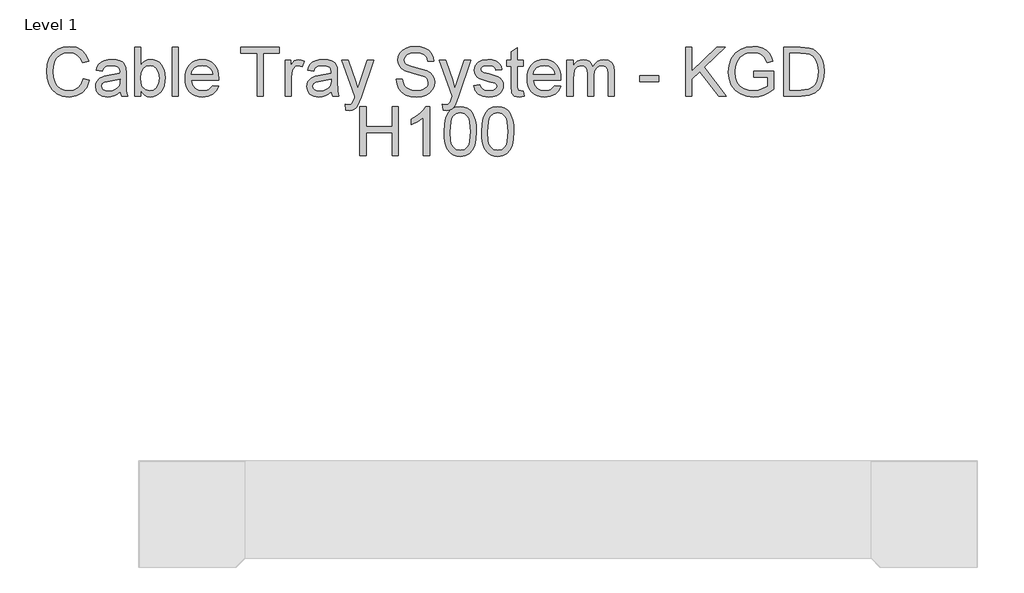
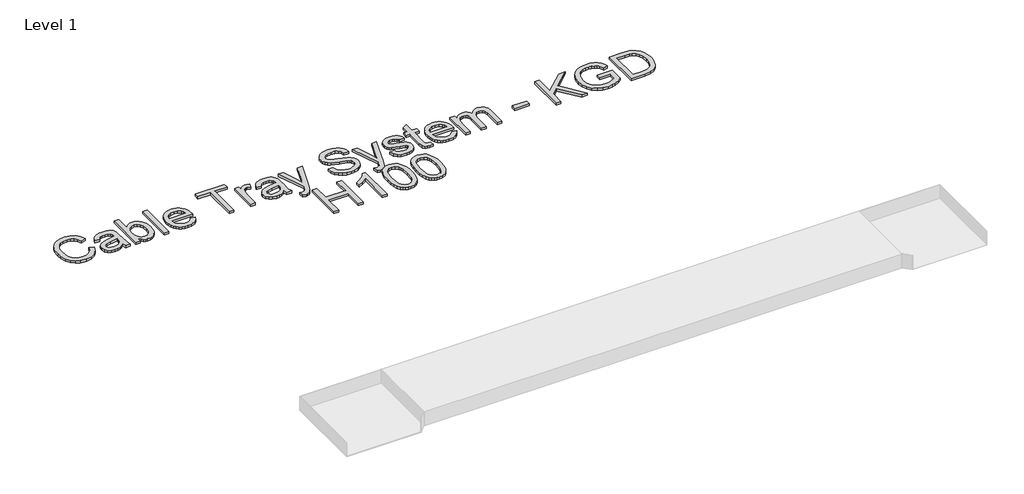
# One storey, part 98 of 106: 1 proxy.
"""IFC4 building model written with IfcOpenShell, lengths in millimetres."""

from ifc_helpers import new_model, si_unit, origin, origin_with_axes, place, context, project, spatial, polyline, outline, extrude, element, save

model = new_model("IFC4")

# Units and contexts
model_context = context("Model", 3, world=origin())
ifc_project = project(units=[si_unit("LENGTHUNIT", "METRE", prefix="MILLI")], contexts=[model_context])

# Site, building, storey
site = spatial("IfcSite", under=ifc_project)
building = spatial("IfcBuilding", under=site)
storey = spatial("IfcBuildingStorey", under=building, Name="Level 1", Elevation=0.0)

# Proxy
placement = place(None, origin())
element("IfcBuildingElementProxy", 1, Name="250mm Arial 3", ObjectType="250mm Arial 3", at=placement, inside=storey, context=model_context, shape_type="SweptSolid", body=[
    extrude(outline(polyline([(164522.3499298, 37392.4106539), (164553.7425267, 37384.31725), (164539.2571732, 37347.7359841), (164516.5251315, 37321.01089), (164486.6653763, 37304.6631338), (164450.7968817, 37299.2138818), (164414.3842284, 37303.3372258), (164385.4671708, 37315.7072579), (164363.3022806, 37335.8947824), (164347.1461296, 37363.4706036), (164337.2822936, 37395.8902044), (164333.9943483, 37430.6090677), (164337.7114893, 37467.2286547), (164348.8629122, 37498.8511778), (164366.8661374, 37524.472626), (164391.1386849, 37543.0889877), (164419.925451, 37554.4243517), (164451.4713321, 37558.2028064), (164485.8912912, 37553.3130415), (164514.3484964, 37538.643747), (164535.9538994, 37515.0992993), (164549.8184521, 37483.584075), (164518.4258552, 37476.1038078), (164507.5426795, 37498.9967978), (164492.6741155, 37514.7007605), (164473.6362223, 37523.7828472), (164450.2450587, 37526.8102095), (164423.2823742, 37523.4532863), (164401.1328124, 37513.3825166), (164384.3252037, 37497.6555613), (164373.3883786, 37477.3300811), (164367.3873035, 37454.3527848), (164365.3869452, 37430.6703814), (164367.7551855, 37401.6690174), (164374.8599066, 37376.5917281), (164386.9693556, 37356.3965394), (164404.3517798, 37342.0414774), (164425.190762, 37333.4652284), (164447.6698848, 37330.6064787), (164473.8738127, 37334.4998965), (164495.709142, 37346.1801498), (164512.1948539, 37365.5246114), (164522.3499298, 37392.4106539)])), origin_with_axes(), (0.0, 0.0, 1.0), 15.0),
    extrude(outline(polyline([(164710.7055113, 37326.6824041), (164695.7066558, 37313.8218627), (164680.2632762, 37305.406562), (164664.022819, 37300.7620518), (164646.6327305, 37299.2138818), (164620.3981457, 37302.938687), (164601.0460199, 37314.1131026), (164589.1128477, 37331.0816596), (164585.1351236, 37352.1888891), (164586.6373085, 37365.2027147), (164591.1438629, 37377.0209238), (164606.9321319, 37395.0471415), (164628.9130811, 37405.3478374), (164656.075035, 37410.0689897), (164710.5215703, 37420.8601949), (164710.7055113, 37427.8499528), (164708.5442046, 37441.8601254), (164702.0602844, 37451.0265185), (164687.5596025, 37457.8323354), (164667.3567496, 37460.100941), (164648.6560815, 37458.591092), (164635.5962707, 37454.0615449), (164626.6904607, 37445.6845653), (164620.4517952, 37432.6324187), (164589.0591983, 37436.5564933), (164594.5084503, 37453.7243198), (164602.6401753, 37467.2133262), (164614.2131297, 37477.5293505), (164629.9860702, 37485.1782303), (164649.2768823, 37489.914711), (164671.4034515, 37491.4935379), (164692.6256441, 37490.098652), (164709.4485812, 37485.9139943), (164722.1328458, 37479.6216794), (164730.9390211, 37471.9038217), (164740.5652666, 37450.5973228), (164742.0981083, 37423.1288005), (164742.0981083, 37384.0719953), (164743.6922636, 37329.5334895), (164749.9462575, 37303.1379564), (164718.5536606, 37303.1379564), (164710.7055113, 37326.6824041)]), holes=[polyline([(164710.7055113, 37389.4675979), (164660.0604233, 37379.8413524), (164633.0517535, 37374.7523181), (164620.8196772, 37366.4749732), (164616.5277206, 37354.3961811), (164618.8653041, 37345.0611754), (164625.8780546, 37337.4122956), (164637.412688, 37332.3079329), (164653.3159201, 37330.6064787), (164670.1771782, 37332.4842097), (164685.076399, 37338.1174028), (164697.1551912, 37346.4177403), (164705.5551634, 37356.2969047), (164709.2799686, 37366.4749732), (164710.5215703, 37380.5771164), (164710.7055113, 37389.4675979)])]), origin_with_axes(), (0.0, 0.0, 1.0), 15.0),
    extrude(outline(polyline([(164816.6555259, 37303.1379564), (164785.262929, 37303.1379564), (164785.262929, 37554.2787318), (164816.6555259, 37554.2787318), (164816.6555259, 37461.1432733), (164826.9792144, 37474.4215141), (164838.6364752, 37483.9059718), (164851.6273081, 37489.5966464), (164865.9517133, 37491.4935379), (164882.1231927, 37489.7844195), (164897.4056239, 37484.6570642), (164910.9252872, 37476.4333687), (164921.8084629, 37465.4352299), (164936.7996542, 37435.5448178), (164942.2259136, 37398.1128248), (164936.608049, 37356.2049342), (164929.5857182, 37339.2746982), (164919.7544551, 37325.0269351), (164907.9534905, 37313.7337243), (164895.0220551, 37305.6671451), (164880.9601491, 37300.8271976), (164865.7677723, 37299.2138818), (164850.9720183, 37301.2947143), (164837.8547259, 37307.5372119), (164826.4158951, 37317.9413746), (164816.6555259, 37332.5072023), (164816.6555259, 37303.1379564)]), holes=[polyline([(164816.6555259, 37396.6412968), (164818.8015042, 37370.4603615), (164825.2394392, 37352.7407121), (164841.68683, 37336.140037), (164863.069971, 37330.6064787), (164881.1881593, 37334.6838375), (164896.6698599, 37346.9159138), (164907.2924525, 37367.2260656), (164910.8333167, 37395.5376509), (164907.4380725, 37424.2631033), (164897.2523397, 37444.3433289), (164882.2534842, 37456.161538), (164864.4188717, 37460.100941), (164846.3006834, 37456.0235822), (164830.8189828, 37443.7915059), (164820.1963901, 37423.8492361), (164816.6555259, 37396.6412968)])]), origin_with_axes(), (0.0, 0.0, 1.0), 15.0),
    extrude(outline(polyline([(164977.5425852, 37303.1379564), (164977.5425852, 37554.2787318), (165008.9351821, 37554.2787318), (165008.9351821, 37303.1379564), (164977.5425852, 37303.1379564)])), origin_with_axes(), (0.0, 0.0, 1.0), 15.0),
    extrude(outline(polyline([(165185.1506578, 37358.075001), (165215.930118, 37354.1509264), (165204.8400087, 37330.9590323), (165187.1433519, 37313.6225933), (165163.2386864, 37302.8160596), (165133.5245511, 37299.2138818), (165114.0459659, 37300.7678), (165096.6903664, 37305.4295547), (165081.4577525, 37313.1991458), (165068.3481243, 37324.0765733), (165057.8060059, 37337.759101), (165050.2759213, 37353.9439928), (165045.7578705, 37372.6312485), (165044.2518536, 37393.8208682), (165045.773199, 37415.7290074), (165050.337235, 37435.0389801), (165057.9439616, 37451.7507861), (165068.593379, 37465.8644256), (165081.6685182, 37477.0771622), (165096.5524106, 37485.0862598), (165113.2450561, 37489.8917184), (165131.7464548, 37491.4935379), (165149.6519613, 37489.8955505), (165165.8445172, 37485.1015883), (165180.3241226, 37477.1116512), (165193.0907775, 37465.9257393), (165203.5121847, 37451.8427566), (165210.9560469, 37435.1616074), (165215.4223642, 37415.8822916), (165216.9111367, 37394.0048092), (165216.7271957, 37385.5435233), (165075.6444505, 37385.5435233), (165081.0783742, 37362.0450609), (165093.7013251, 37344.7699355), (165111.9191481, 37334.1473429), (165134.1376878, 37330.6064787), (165150.8456617, 37332.2466193), (165164.917148, 37337.1670409), (165176.3521467, 37345.6743121), (165185.1506578, 37358.075001)]), holes=[polyline([(165075.6444505, 37416.9361202), (165185.5185398, 37416.9361202), (165181.2725684, 37433.5214669), (165172.9492383, 37445.3856612), (165154.647109, 37456.4221211), (165131.6238275, 37460.100941), (165110.4629486, 37457.1655493), (165092.9655612, 37448.359374), (165080.8024627, 37434.632777), (165075.6444505, 37416.9361202)])]), origin_with_axes(), (0.0, 0.0, 1.0), 15.0),
    extrude(outline(polyline([(165413.1148675, 37303.1379564), (165413.1148675, 37522.8861348), (165330.7093005, 37522.8861348), (165330.7093005, 37554.2787318), (165526.9130313, 37554.2787318), (165526.9130313, 37522.8861348), (165444.5074644, 37522.8861348), (165444.5074644, 37303.1379564), (165413.1148675, 37303.1379564)])), origin_with_axes(), (0.0, 0.0, 1.0), 15.0),
    extrude(outline(polyline([(165558.3056282, 37303.1379564), (165558.3056282, 37487.5694633), (165585.7741505, 37487.5694633), (165585.7741505, 37460.284882), (165595.9215622, 37476.1038078), (165605.2718963, 37485.423485), (165624.8922693, 37491.4935379), (165640.5272541, 37489.0716481), (165656.4074936, 37481.8059787), (165645.9228567, 37453.6630061), (165623.849937, 37460.100941), (165614.4766104, 37458.5527709), (165606.0996308, 37453.9082608), (165594.7872594, 37436.7404343), (165589.6982251, 37400.0748621), (165589.6982251, 37303.1379564), (165558.3056282, 37303.1379564)])), origin_with_axes(), (0.0, 0.0, 1.0), 15.0),
    extrude(outline(polyline([(165793.7501051, 37326.6824041), (165778.7512496, 37313.8218627), (165763.30787, 37305.406562), (165747.0674128, 37300.7620518), (165729.6773243, 37299.2138818), (165703.4427395, 37302.938687), (165684.0906137, 37314.1131026), (165672.1574415, 37331.0816596), (165668.1797174, 37352.1888891), (165669.6819023, 37365.2027147), (165674.1884567, 37377.0209238), (165689.9767257, 37395.0471415), (165711.9576749, 37405.3478374), (165739.1196289, 37410.0689897), (165793.5661641, 37420.8601949), (165793.7501051, 37427.8499528), (165791.5887984, 37441.8601254), (165785.1048782, 37451.0265185), (165770.6041963, 37457.8323354), (165750.4013434, 37460.100941), (165731.7006753, 37458.591092), (165718.6408645, 37454.0615449), (165709.7350545, 37445.6845653), (165703.496389, 37432.6324187), (165672.1037921, 37436.5564933), (165677.5530441, 37453.7243198), (165685.6847691, 37467.2133262), (165697.2577235, 37477.5293505), (165713.030664, 37485.1782303), (165732.3214761, 37489.914711), (165754.4480453, 37491.4935379), (165775.6702379, 37490.098652), (165792.493175, 37485.9139943), (165805.1774396, 37479.6216794), (165813.9836149, 37471.9038217), (165823.6098604, 37450.5973228), (165825.1427021, 37423.1288005), (165825.1427021, 37384.0719953), (165826.7368574, 37329.5334895), (165832.9908513, 37303.1379564), (165801.5982544, 37303.1379564), (165793.7501051, 37326.6824041)]), holes=[polyline([(165793.7501051, 37389.4675979), (165743.1050171, 37379.8413524), (165716.0963473, 37374.7523181), (165703.864271, 37366.4749732), (165699.5723144, 37354.3961811), (165701.9098979, 37345.0611754), (165708.9226484, 37337.4122956), (165720.4572818, 37332.3079329), (165736.3605139, 37330.6064787), (165753.221772, 37332.4842097), (165768.1209928, 37338.1174028), (165780.199785, 37346.4177403), (165788.5997572, 37356.2969047), (165792.3245624, 37366.4749732), (165793.5661641, 37380.5771164), (165793.7501051, 37389.4675979)])]), origin_with_axes(), (0.0, 0.0, 1.0), 15.0),
    extrude(outline(polyline([(165868.3075228, 37232.5046133), (165864.3834482, 37262.7322506), (165880.3250013, 37259.9731356), (165895.2242221, 37263.4373577), (165904.3599584, 37273.0942601), (165912.9438716, 37296.2095122), (165915.3964182, 37303.8124067), (165848.6871497, 37487.5694633), (165881.7352156, 37487.5694633), (165917.1745145, 37385.1143277), (165929.4985614, 37344.1567989), (165941.8226082, 37380.3931754), (165978.181612, 37487.5694633), (166010.9844233, 37487.5694633), (165946.7890151, 37298.7233725), (165930.111698, 37257.7658437), (165921.57377, 37244.6907044), (165911.9015393, 37235.6316103), (165900.6811384, 37230.3433066), (165887.4987002, 37228.5805387), (165868.3075228, 37232.5046133)])), origin_with_axes(), (0.0, 0.0, 1.0), 15.0),
    extrude(outline(polyline([(166127.2964474, 37389.4675979), (166158.6890443, 37389.4675979), (166162.2912222, 37372.0468526), (166168.8057992, 37358.0443442), (166178.9685393, 37346.9312422), (166193.5152066, 37338.1787164), (166211.2961697, 37332.4995381), (166231.1617974, 37330.6064787), (166248.6515206, 37332.0396856), (166263.9646086, 37336.3393065), (166276.3729618, 37343.1451234), (166285.1484802, 37352.0969186), (166290.367806, 37362.3746218), (166292.1075813, 37373.1581628), (166286.8959197, 37392.7478791), (166278.9557999, 37400.4963936), (166265.5587639, 37407.0033064), (166219.849426, 37418.990128), (166170.6452092, 37434.4718287), (166155.0178886, 37445.0331076), (166143.9431077, 37457.8323354), (166137.3442244, 37472.5936004), (166135.1445967, 37489.0409913), (166137.8653906, 37507.4274268), (166146.0277723, 37524.5722607), (166159.4171441, 37539.1035995), (166177.8189081, 37549.64955), (166199.9071562, 37556.0644923), (166224.3559805, 37558.2028064), (166250.8434841, 37555.9648576), (166274.0200498, 37549.2510112), (166293.0579431, 37538.1992229), (166307.1294294, 37522.9474485), (166316.0352394, 37504.4460498), (166319.5761036, 37483.6453887), (166288.1835067, 37483.6453887), (166282.4200221, 37502.3767136), (166270.4025436, 37515.8963769), (166251.6252334, 37524.0817513), (166225.5822538, 37526.8102095), (166198.9261376, 37524.1124082), (166180.6393367, 37516.0190043), (166170.0627294, 37504.1088247), (166166.5371936, 37489.9606963), (166169.0357255, 37477.8972325), (166176.5313211, 37468.1943449), (166194.2509705, 37459.5184612), (166227.7895458, 37450.6586365), (166283.339727, 37434.9010243), (166301.2356533, 37423.5120109), (166313.7206485, 37409.455853), (166321.0552958, 37392.8858348), (166323.5001782, 37373.9552405), (166320.6874138, 37354.6031147), (166312.2491205, 37336.4006201), (166298.5301878, 37320.7349785), (166279.8755049, 37308.9934115), (166257.4423674, 37301.6587642), (166232.3880707, 37299.2138818), (166201.6316031, 37301.8503694), (166176.3167233, 37309.7598323), (166156.1521914, 37322.9729273), (166140.8467676, 37341.5203112), (166131.0212526, 37364.1143971), (166127.2964474, 37389.4675979)])), origin_with_axes(), (0.0, 0.0, 1.0), 15.0),
    extrude(outline(polyline([(166366.664999, 37232.5046133), (166362.7409243, 37262.7322506), (166378.6824775, 37259.9731356), (166393.5816983, 37263.4373577), (166402.7174345, 37273.0942601), (166411.3013477, 37296.2095122), (166413.7538943, 37303.8124067), (166347.0446259, 37487.5694633), (166380.0926918, 37487.5694633), (166415.5319906, 37385.1143277), (166427.8560375, 37344.1567989), (166440.1800843, 37380.3931754), (166476.5390882, 37487.5694633), (166509.3418994, 37487.5694633), (166445.1464913, 37298.7233725), (166428.4691741, 37257.7658437), (166419.9312462, 37244.6907044), (166410.2590154, 37235.6316103), (166399.0386145, 37230.3433066), (166385.8561764, 37228.5805387), (166366.664999, 37232.5046133)])), origin_with_axes(), (0.0, 0.0, 1.0), 15.0),
    extrude(outline(polyline([(166523.6279836, 37358.075001), (166555.0205805, 37361.9990756), (166559.971659, 37348.5713828), (166569.5519193, 37338.6998826), (166583.822675, 37332.6298297), (166602.8452399, 37330.6064787), (166621.6378784, 37332.4612171), (166634.8509734, 37338.0254323), (166642.6684658, 37346.0881793), (166645.2742966, 37355.4385134), (166642.6531374, 37363.4399468), (166634.7896598, 37369.5406565), (166602.4773579, 37378.4924517), (166555.2045215, 37393.851525), (166543.2406924, 37401.5693827), (166534.5724729, 37411.7857723), (166529.3071619, 37423.8492361), (166527.5520582, 37437.1083163), (166533.1929154, 37460.4994798), (166548.5826456, 37478.3724134), (166568.5402438, 37487.6614338), (166595.5489136, 37491.4935379), (166615.9816928, 37489.9530321), (166633.7473275, 37485.3315145), (166648.0334116, 37478.0811735), (166658.0275391, 37468.6541974), (166664.649415, 37456.3531432), (166668.8187443, 37440.4805679), (166637.4261474, 37436.5564933), (166633.4637517, 37446.4356577), (166625.6232667, 37453.8776039), (166613.8280503, 37458.5451067), (166598.0014603, 37460.100941), (166579.9752425, 37458.6140846), (166567.957764, 37454.1535154), (166561.1979323, 37447.7155805), (166558.9446551, 37440.2966269), (166562.6847887, 37431.1608907), (166574.3956989, 37424.2324465), (166601.4350255, 37417.5492569), (166647.5122454, 37402.7726634), (166659.6830081, 37395.7062634), (166668.9107148, 37386.0340326), (166674.7278489, 37373.7253142), (166676.6668936, 37358.7494513), (166674.3906237, 37343.2677507), (166667.5618142, 37328.7057551), (166656.441048, 37316.2054314), (166641.2889084, 37306.9087468), (166622.9867791, 37301.137598), (166602.4160442, 37299.2138818), (166570.7628642, 37302.9233586), (166547.6629406, 37314.0517889), (166532.2425536, 37332.4765455), (166523.6279836, 37358.075001)])), origin_with_axes(), (0.0, 0.0, 1.0), 15.0),
    extrude(outline(polyline([(166778.6928336, 37329.3188917), (166782.6169082, 37302.2182514), (166759.1337741, 37299.2138818), (166744.0659408, 37300.5167972), (166732.8302115, 37304.4255434), (166719.709087, 37318.0984909), (166715.9076397, 37353.7217307), (166715.9076397, 37456.1768664), (166692.363192, 37456.1768664), (166692.363192, 37487.5694633), (166715.9076397, 37487.5694633), (166715.9076397, 37532.3897531), (166747.3002366, 37550.8451665), (166747.3002366, 37487.5694633), (166778.6928336, 37487.5694633), (166778.6928336, 37456.1768664), (166747.3002366, 37456.1768664), (166747.3002366, 37354.6414357), (166748.9557056, 37338.4546279), (166754.3206514, 37332.7218002), (166765.0198861, 37330.6064787), (166778.6928336, 37329.3188917)])), origin_with_axes(), (0.0, 0.0, 1.0), 15.0),
    extrude(outline(polyline([(166939.2120108, 37358.075001), (166969.991471, 37354.1509264), (166958.9013617, 37330.9590323), (166941.2047049, 37313.6225933), (166917.3000394, 37302.8160596), (166887.5859041, 37299.2138818), (166868.1073189, 37300.7678), (166850.7517194, 37305.4295547), (166835.5191055, 37313.1991458), (166822.4094773, 37324.0765733), (166811.8673589, 37337.759101), (166804.3372743, 37353.9439928), (166799.8192235, 37372.6312485), (166798.3132066, 37393.8208682), (166799.834552, 37415.7290074), (166804.398588, 37435.0389801), (166812.0053146, 37451.7507861), (166822.654732, 37465.8644256), (166835.7298712, 37477.0771622), (166850.6137636, 37485.0862598), (166867.3064091, 37489.8917184), (166885.8078078, 37491.4935379), (166903.7133143, 37489.8955505), (166919.9058702, 37485.1015883), (166934.3854756, 37477.1116512), (166947.1521305, 37465.9257393), (166957.5735377, 37451.8427566), (166965.0173999, 37435.1616074), (166969.4837173, 37415.8822916), (166970.9724897, 37394.0048092), (166970.7885487, 37385.5435233), (166829.7058036, 37385.5435233), (166835.1397272, 37362.0450609), (166847.7626781, 37344.7699355), (166865.9805011, 37334.1473429), (166888.1990408, 37330.6064787), (166904.9070147, 37332.2466193), (166918.978501, 37337.1670409), (166930.4134997, 37345.6743121), (166939.2120108, 37358.075001)]), holes=[polyline([(166829.7058036, 37416.9361202), (166939.5798928, 37416.9361202), (166935.3339214, 37433.5214669), (166927.0105913, 37445.3856612), (166908.708462, 37456.4221211), (166885.6851805, 37460.100941), (166864.5243016, 37457.1655493), (166847.0269142, 37448.359374), (166834.8638157, 37434.632777), (166829.7058036, 37416.9361202)])]), origin_with_axes(), (0.0, 0.0, 1.0), 15.0),
    extrude(outline(polyline([(167002.3650866, 37303.1379564), (167002.3650866, 37487.5694633), (167033.7576835, 37487.5694633), (167033.7576835, 37457.2191987), (167043.1999881, 37471.1603935), (167055.3400939, 37482.0818902), (167069.7641338, 37489.140626), (167086.0582405, 37491.4935379), (167103.5173069, 37489.0946407), (167117.5121511, 37481.8979492), (167127.9661311, 37470.3786442), (167134.8026049, 37455.0119067), (167146.2452678, 37470.9726204), (167159.2974144, 37482.3731301), (167173.9590447, 37489.213436), (167190.2301588, 37491.4935379), (167213.828256, 37487.6997549), (167231.2796581, 37476.3184056), (167242.0631991, 37457.0429219), (167245.6577128, 37429.5667354), (167245.6577128, 37303.1379564), (167214.2651158, 37303.1379564), (167214.2651158, 37416.0777289), (167211.3527167, 37442.2893211), (167200.8067662, 37455.1958477), (167182.8725189, 37460.100941), (167165.8656409, 37456.9586156), (167152.0010882, 37447.5316395), (167142.7810457, 37431.1762191), (167139.7076982, 37407.248561), (167139.7076982, 37303.1379564), (167108.3151012, 37303.1379564), (167108.3151012, 37419.5726079), (167106.4986839, 37437.3229141), (167101.0494318, 37449.9841861), (167091.4615073, 37457.5717523), (167077.2290726, 37460.100941), (167065.134952, 37458.4148152), (167053.9911933, 37453.3564378), (167044.7941434, 37445.048436), (167038.5401495, 37433.6134374), (167033.7576835, 37396.1507875), (167033.7576835, 37303.1379564), (167002.3650866, 37303.1379564)])), origin_with_axes(), (0.0, 0.0, 1.0), 15.0),
    extrude(outline(polyline([(167375.1521751, 37377.6953741), (167375.1521751, 37409.087971), (167473.2540404, 37409.087971), (167473.2540404, 37377.6953741), (167375.1521751, 37377.6953741)])), origin_with_axes(), (0.0, 0.0, 1.0), 15.0),
    extrude(outline(polyline([(167610.596652, 37303.1379564), (167610.596652, 37554.2787318), (167641.9892489, 37554.2787318), (167641.9892489, 37431.3448317), (167770.7479472, 37554.2787318), (167814.648532, 37554.2787318), (167706.4912254, 37451.0265185), (167818.5726066, 37303.1379564), (167780.1902518, 37303.1379564), (167684.2343647, 37429.8119901), (167641.9892489, 37389.4675979), (167641.9892489, 37303.1379564), (167610.596652, 37303.1379564)])), origin_with_axes(), (0.0, 0.0, 1.0), 15.0),
    extrude(outline(polyline([(167959.8392927, 37401.2398218), (167959.8392927, 37432.6324187), (168061.8652327, 37432.6324187), (168061.8652327, 37338.7611963), (168037.0715191, 37321.5167277), (168011.4960562, 37309.1466956), (167985.2001578, 37301.6970852), (167958.2451374, 37299.2138818), (167923.0281006, 37303.160949), (167891.1986438, 37315.0021507), (167864.7571254, 37334.3236197), (167845.7039037, 37360.7114886), (167834.1845988, 37392.3646686), (167830.3448304, 37427.4820708), (167834.1692703, 37462.8523918), (167845.6425901, 37495.7548377), (167864.2896087, 37523.3536515), (167889.6351453, 37542.8130763), (167920.5065761, 37554.3553739), (167955.7312771, 37558.2028064), (167981.5903157, 37555.9725218), (168004.8435235, 37549.281668), (168024.4255755, 37538.6130901), (168039.2711469, 37524.4496333), (168050.2539573, 37506.109183), (168058.2477264, 37482.9096247), (168029.3076762, 37474.7549071), (168014.9909352, 37503.7869279), (168004.5982688, 37513.1985756), (167990.5267825, 37520.5255587), (167973.7498307, 37525.2390468), (167955.2407678, 37526.8102095), (167933.5740511, 37525.1164194), (167915.0496598, 37520.0350494), (167899.7365718, 37512.2022286), (167887.7037648, 37502.2540863), (167871.5476139, 37478.0658451), (167864.189974, 37454.3681132), (167861.7374274, 37428.7696577), (167864.6881475, 37398.7489541), (167873.540308, 37374.047211), (167888.0256616, 37354.8407051), (167907.8759609, 37341.3057134), (167931.1061761, 37333.2812874), (167955.7312771, 37330.6064787), (167977.4746359, 37332.6221655), (167998.6815001, 37338.6692258), (168030.4726358, 37355.867709), (168030.4726358, 37401.2398218), (167959.8392927, 37401.2398218)])), origin_with_axes(), (0.0, 0.0, 1.0), 15.0),
    extrude(outline(polyline([(168112.8782027, 37303.1379564), (168112.8782027, 37554.2787318), (168199.5144126, 37554.2787318), (168244.3347023, 37550.6612255), (168264.3536142, 37543.686796), (168281.2455292, 37532.6963214), (168298.612625, 37513.5664576), (168310.9826571, 37489.7767553), (168318.3862823, 37461.7870668), (168320.8541573, 37430.0572447), (168319.1833599, 37403.1022244), (168314.1709678, 37379.3814999), (168306.5374164, 37359.1863112), (168297.0031413, 37342.8078982), (168274.0718303, 37320.0298713), (168244.0587908, 37307.429913), (168203.6837419, 37303.1379564), (168112.8782027, 37303.1379564)]), holes=[polyline([(168144.2707997, 37334.5305533), (168199.8209809, 37334.5305533), (168240.2266867, 37339.0677646), (168263.5258798, 37351.8823208), (168274.4320481, 37365.470962), (168282.6250867, 37383.0603198), (168287.752442, 37404.7270365), (168289.4615604, 37430.5477541), (168286.1123014, 37464.7607796), (168276.0645244, 37490.0220099), (168261.2189531, 37507.3737774), (168243.476311, 37517.8584142), (168225.4194364, 37521.6292047), (168198.9625896, 37522.8861348), (168144.2707997, 37522.8861348), (168144.2707997, 37334.5305533)])]), origin_with_axes(), (0.0, 0.0, 1.0), 15.0),
    extrude(outline(polyline([(165940.9029032, 36998.2009118), (165940.9029032, 37249.3416872), (165972.2955001, 37249.3416872), (165972.2955001, 37147.3157472), (166105.714037, 37147.3157472), (166105.714037, 37249.3416872), (166137.106634, 37249.3416872), (166137.106634, 36998.2009118), (166105.714037, 36998.2009118), (166105.714037, 37115.9231502), (165972.2955001, 37115.9231502), (165972.2955001, 36998.2009118), (165940.9029032, 36998.2009118)])), origin_with_axes(), (0.0, 0.0, 1.0), 15.0),
    extrude(outline(polyline([(166297.9936932, 36998.2009118), (166266.6010963, 36998.2009118), (166266.6010963, 37193.9141332), (166236.8639683, 37172.7302617), (166203.8159024, 37156.880679), (166203.8159024, 37186.5564933), (166228.4716603, 37199.9688577), (166249.8318087, 37215.9257393), (166266.6700741, 37232.8942963), (166277.7601835, 37249.3416872), (166297.9936932, 37249.3416872), (166297.9936932, 36998.2009118)])), origin_with_axes(), (0.0, 0.0, 1.0), 15.0),
    extrude(outline(polyline([(166372.5511109, 37121.7479485), (166374.8580376, 37161.9467207), (166381.7788176, 37194.0061037), (166393.2444731, 37218.4166069), (166409.1860262, 37235.6687397), (166429.7184401, 37245.9234503), (166454.9566778, 37249.3416872), (166474.3011394, 37247.3183362), (166491.62225, 37241.2482833), (166506.1076035, 37231.3691189), (166516.944794, 37217.9184334), (166531.6600738, 37180.7623519), (166535.936702, 37155.0489333), (166537.3622447, 37121.7479485), (166535.0783107, 37081.7791026), (166528.2265085, 37049.7963616), (166516.8298309, 37025.3628658), (166500.9112704, 37008.0417552), (166480.3328713, 36997.7180667), (166454.9566778, 36994.2768372), (166437.666224, 36995.7713578), (166422.3378076, 37000.2549196), (166408.9714284, 37007.7275226), (166397.5670866, 37018.1891669), (166386.6225972, 37037.1006007), (166378.8051048, 37060.6642089), (166374.1146094, 37088.8799915), (166372.5511109, 37121.7479485)]), holes=[polyline([(166403.9437078, 37121.8092622), (166407.6225278, 37072.4287685), (166412.2210527, 37055.5387696), (166418.6589876, 37043.848936), (166435.0910501, 37030.2143096), (166454.9566778, 37025.6694341), (166474.8223055, 37030.229638), (166491.254368, 37043.9102497), (166497.6923029, 37055.6192438), (166502.2908278, 37072.5054106), (166505.9696478, 37121.8092622), (166502.4134552, 37170.0784456), (166497.9682144, 37186.912879), (166491.7448773, 37198.8805402), (166475.3434717, 37213.1819527), (166454.5887958, 37217.9490902), (166434.9377659, 37213.7491041), (166419.1494969, 37201.1491458), (166412.4969642, 37188.1199918), (166407.7451551, 37170.5536265), (166403.9437078, 37121.8092622)])]), origin_with_axes(), (0.0, 0.0, 1.0), 15.0),
    extrude(outline(polyline([(166564.830767, 37121.7479485), (166567.1376937, 37161.9467207), (166574.0584737, 37194.0061037), (166585.5241293, 37218.4166069), (166601.4656824, 37235.6687397), (166621.9980962, 37245.9234503), (166647.2363339, 37249.3416872), (166666.5807955, 37247.3183362), (166683.9019061, 37241.2482833), (166698.3872597, 37231.3691189), (166709.2244501, 37217.9184334), (166723.9397299, 37180.7623519), (166728.2163581, 37155.0489333), (166729.6419009, 37121.7479485), (166727.3579668, 37081.7791026), (166720.5061647, 37049.7963616), (166709.109487, 37025.3628658), (166693.1909265, 37008.0417552), (166672.6125274, 36997.7180667), (166647.2363339, 36994.2768372), (166629.9458802, 36995.7713578), (166614.6174637, 37000.2549196), (166601.2510845, 37007.7275226), (166589.8467427, 37018.1891669), (166578.9022533, 37037.1006007), (166571.0847609, 37060.6642089), (166566.3942655, 37088.8799915), (166564.830767, 37121.7479485)]), holes=[polyline([(166596.2233639, 37121.8092622), (166599.9021839, 37072.4287685), (166604.5007088, 37055.5387696), (166610.9386438, 37043.848936), (166627.3707062, 37030.2143096), (166647.2363339, 37025.6694341), (166667.1019617, 37030.229638), (166683.5340241, 37043.9102497), (166689.9719591, 37055.6192438), (166694.570484, 37072.5054106), (166698.2493039, 37121.8092622), (166694.6931113, 37170.0784456), (166690.2478705, 37186.912879), (166684.0245335, 37198.8805402), (166667.6231278, 37213.1819527), (166646.8684519, 37217.9490902), (166627.217422, 37213.7491041), (166611.4291531, 37201.1491458), (166604.7766203, 37188.1199918), (166600.0248112, 37170.5536265), (166596.2233639, 37121.8092622)])]), origin_with_axes(), (0.0, 0.0, 1.0), 15.0),
])

save(model, "model.ifc")
